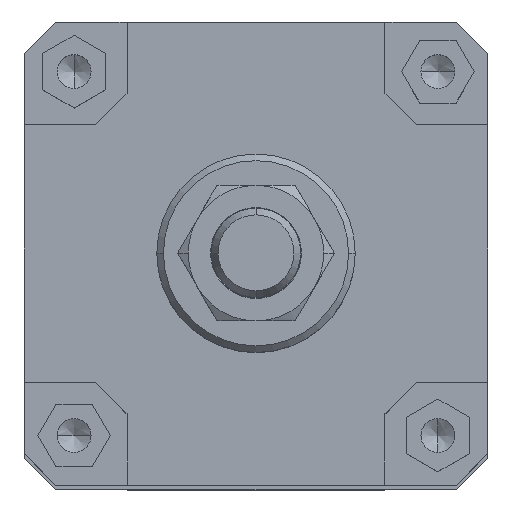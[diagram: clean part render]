
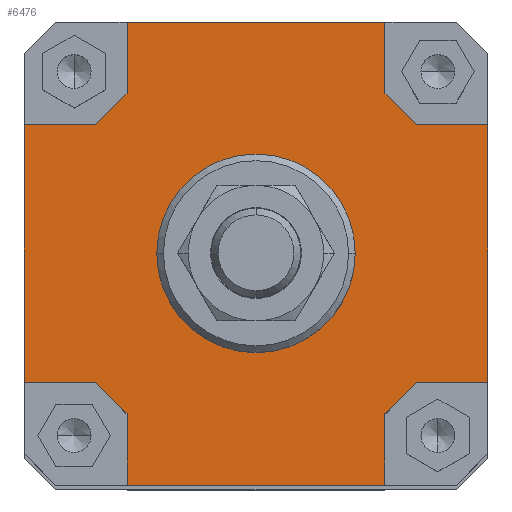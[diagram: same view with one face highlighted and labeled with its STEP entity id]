
A CAD part, top view. The second image highlights one B-rep face of the part: STEP entity #6476.
In plain terms, the highlighted planar face has unit normal (0, 0, 1).
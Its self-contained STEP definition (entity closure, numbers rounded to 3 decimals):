
#2320=CARTESIAN_POINT('',(-30.0,0.,430.0));
#2321=VERTEX_POINT('',#2320);
#2330=CARTESIAN_POINT('',(30.0,0.,430.0));
#2331=VERTEX_POINT('',#2330);
#2332=CARTESIAN_POINT('',(0.0,0.0,430.0));
#2333=DIRECTION('',(0.0,0.0,-1.0));
#2334=DIRECTION('',(-1.0,0.0,0.0));
#2335=AXIS2_PLACEMENT_3D('',#2332,#2333,#2334);
#2336=CIRCLE('',#2335,30.0);
#2337=EDGE_CURVE('',#2331,#2321,#2336,.T.);
#2557=CARTESIAN_POINT('',(0.0,0.0,430.0));
#2558=DIRECTION('',(0.0,0.0,-1.0));
#2559=DIRECTION('',(-1.0,0.0,0.0));
#2560=AXIS2_PLACEMENT_3D('',#2557,#2558,#2559);
#2561=CIRCLE('',#2560,30.0);
#2562=EDGE_CURVE('',#2321,#2331,#2561,.T.);
#2641=CARTESIAN_POINT('',(-39.,70.,430.0));
#2642=VERTEX_POINT('',#2641);
#2649=CARTESIAN_POINT('',(39.,70.,430.0));
#2650=VERTEX_POINT('',#2649);
#2651=CARTESIAN_POINT('',(-39.,70.,430.0));
#2652=DIRECTION('',(1.0,0.0,0.0));
#2653=VECTOR('',#2652,78.);
#2654=LINE('',#2651,#2653);
#2655=EDGE_CURVE('',#2642,#2650,#2654,.T.);
#3100=CARTESIAN_POINT('',(70.,39.,430.0));
#3101=VERTEX_POINT('',#3100);
#3108=CARTESIAN_POINT('',(70.,-39.0,430.0));
#3109=VERTEX_POINT('',#3108);
#3110=CARTESIAN_POINT('',(70.,39.,430.0));
#3111=DIRECTION('',(0.0,-1.0,0.0));
#3112=VECTOR('',#3111,78.);
#3113=LINE('',#3110,#3112);
#3114=EDGE_CURVE('',#3101,#3109,#3113,.T.);
#3181=CARTESIAN_POINT('',(-39.,-48.5,430.0));
#3182=VERTEX_POINT('',#3181);
#3189=CARTESIAN_POINT('',(-48.5,-39.,430.0));
#3190=VERTEX_POINT('',#3189);
#3191=CARTESIAN_POINT('',(-39.,-48.5,430.0));
#3192=DIRECTION('',(-0.707,0.707,0.0));
#3193=VECTOR('',#3192,13.435);
#3194=LINE('',#3191,#3193);
#3195=EDGE_CURVE('',#3182,#3190,#3194,.T.);
#3309=CARTESIAN_POINT('',(-70.,-39.,430.0));
#3310=VERTEX_POINT('',#3309);
#3311=CARTESIAN_POINT('',(-70.,-39.,430.0));
#3312=DIRECTION('',(1.0,0.0,0.0));
#3313=VECTOR('',#3312,21.5);
#3314=LINE('',#3311,#3313);
#3315=EDGE_CURVE('',#3310,#3190,#3314,.T.);
#3342=CARTESIAN_POINT('',(48.5,-39.,430.0));
#3343=VERTEX_POINT('',#3342);
#3350=CARTESIAN_POINT('',(39.,-48.5,430.0));
#3351=VERTEX_POINT('',#3350);
#3352=CARTESIAN_POINT('',(48.5,-39.,430.0));
#3353=DIRECTION('',(-0.707,-0.707,0.0));
#3354=VECTOR('',#3353,13.435);
#3355=LINE('',#3352,#3354);
#3356=EDGE_CURVE('',#3343,#3351,#3355,.T.);
#3454=CARTESIAN_POINT('',(39.,-70.,430.0));
#3455=VERTEX_POINT('',#3454);
#3456=CARTESIAN_POINT('',(39.,-70.,430.0));
#3457=DIRECTION('',(0.0,1.0,0.0));
#3458=VECTOR('',#3457,21.5);
#3459=LINE('',#3456,#3458);
#3460=EDGE_CURVE('',#3455,#3351,#3459,.T.);
#3487=CARTESIAN_POINT('',(39.,48.5,430.0));
#3488=VERTEX_POINT('',#3487);
#3495=CARTESIAN_POINT('',(48.5,39.,430.0));
#3496=VERTEX_POINT('',#3495);
#3497=CARTESIAN_POINT('',(39.,48.5,430.0));
#3498=DIRECTION('',(0.707,-0.707,0.0));
#3499=VECTOR('',#3498,13.435);
#3500=LINE('',#3497,#3499);
#3501=EDGE_CURVE('',#3488,#3496,#3500,.T.);
#3592=CARTESIAN_POINT('',(70.,39.,430.0));
#3593=DIRECTION('',(-1.0,0.0,0.0));
#3594=VECTOR('',#3593,21.5);
#3595=LINE('',#3592,#3594);
#3596=EDGE_CURVE('',#3101,#3496,#3595,.T.);
#3609=CARTESIAN_POINT('',(-48.5,39.,430.0));
#3610=VERTEX_POINT('',#3609);
#3617=CARTESIAN_POINT('',(-39.,48.5,430.0));
#3618=VERTEX_POINT('',#3617);
#3619=CARTESIAN_POINT('',(-48.5,39.,430.0));
#3620=DIRECTION('',(0.707,0.707,0.0));
#3621=VECTOR('',#3620,13.435);
#3622=LINE('',#3619,#3621);
#3623=EDGE_CURVE('',#3610,#3618,#3622,.T.);
#3640=CARTESIAN_POINT('',(-39.,70.,430.0));
#3641=DIRECTION('',(0.0,-1.0,0.0));
#3642=VECTOR('',#3641,21.5);
#3643=LINE('',#3640,#3642);
#3644=EDGE_CURVE('',#2642,#3618,#3643,.T.);
#4674=CARTESIAN_POINT('',(-70.,39.0,430.0));
#4675=VERTEX_POINT('',#4674);
#4676=CARTESIAN_POINT('',(-70.,-39.,430.0));
#4677=DIRECTION('',(0.0,1.0,0.0));
#4678=VECTOR('',#4677,78.0);
#4679=LINE('',#4676,#4678);
#4680=EDGE_CURVE('',#3310,#4675,#4679,.T.);
#6070=CARTESIAN_POINT('',(-48.5,39.,430.0));
#6071=DIRECTION('',(-1.0,0.0,0.0));
#6072=VECTOR('',#6071,21.5);
#6073=LINE('',#6070,#6072);
#6074=EDGE_CURVE('',#3610,#4675,#6073,.T.);
#6231=CARTESIAN_POINT('',(39.,48.5,430.0));
#6232=DIRECTION('',(0.0,1.0,0.0));
#6233=VECTOR('',#6232,21.5);
#6234=LINE('',#6231,#6233);
#6235=EDGE_CURVE('',#3488,#2650,#6234,.T.);
#6392=CARTESIAN_POINT('',(48.5,-39.,430.0));
#6393=DIRECTION('',(1.0,0.0,0.0));
#6394=VECTOR('',#6393,21.5);
#6395=LINE('',#6392,#6394);
#6396=EDGE_CURVE('',#3343,#3109,#6395,.T.);
#6437=CARTESIAN_POINT('',(0.,0.,430.0));
#6438=DIRECTION('',(0.0,0.0,1.0));
#6439=DIRECTION('',(1.0,0.0,0.0));
#6440=AXIS2_PLACEMENT_3D('',#6437,#6438,#6439);
#6441=PLANE('',#6440);
#6442=ORIENTED_EDGE('',*,*,#3644,.T.);
#6443=ORIENTED_EDGE('',*,*,#3623,.F.);
#6444=ORIENTED_EDGE('',*,*,#6074,.T.);
#6445=ORIENTED_EDGE('',*,*,#4680,.F.);
#6446=ORIENTED_EDGE('',*,*,#3315,.T.);
#6447=ORIENTED_EDGE('',*,*,#3195,.F.);
#6448=CARTESIAN_POINT('',(-39.,-70.,430.0));
#6449=VERTEX_POINT('',#6448);
#6450=CARTESIAN_POINT('',(-39.,-48.5,430.0));
#6451=DIRECTION('',(0.0,-1.0,0.0));
#6452=VECTOR('',#6451,21.5);
#6453=LINE('',#6450,#6452);
#6454=EDGE_CURVE('',#3182,#6449,#6453,.T.);
#6455=ORIENTED_EDGE('',*,*,#6454,.T.);
#6456=CARTESIAN_POINT('',(39.,-70.,430.0));
#6457=DIRECTION('',(-1.0,0.0,0.0));
#6458=VECTOR('',#6457,78.);
#6459=LINE('',#6456,#6458);
#6460=EDGE_CURVE('',#3455,#6449,#6459,.T.);
#6461=ORIENTED_EDGE('',*,*,#6460,.F.);
#6462=ORIENTED_EDGE('',*,*,#3460,.T.);
#6463=ORIENTED_EDGE('',*,*,#3356,.F.);
#6464=ORIENTED_EDGE('',*,*,#6396,.T.);
#6465=ORIENTED_EDGE('',*,*,#3114,.F.);
#6466=ORIENTED_EDGE('',*,*,#3596,.T.);
#6467=ORIENTED_EDGE('',*,*,#3501,.F.);
#6468=ORIENTED_EDGE('',*,*,#6235,.T.);
#6469=ORIENTED_EDGE('',*,*,#2655,.F.);
#6470=EDGE_LOOP('',(#6442,#6443,#6444,#6445,#6446,#6447,#6455,#6461,#6462,#6463,#6464,#6465,#6466,#6467,#6468,#6469));
#6471=FACE_OUTER_BOUND('',#6470,.T.);
#6472=ORIENTED_EDGE('',*,*,#2337,.T.);
#6473=ORIENTED_EDGE('',*,*,#2562,.T.);
#6474=EDGE_LOOP('',(#6472,#6473));
#6475=FACE_BOUND('',#6474,.T.);
#6476=ADVANCED_FACE('',(#6471,#6475),#6441,.T.);
